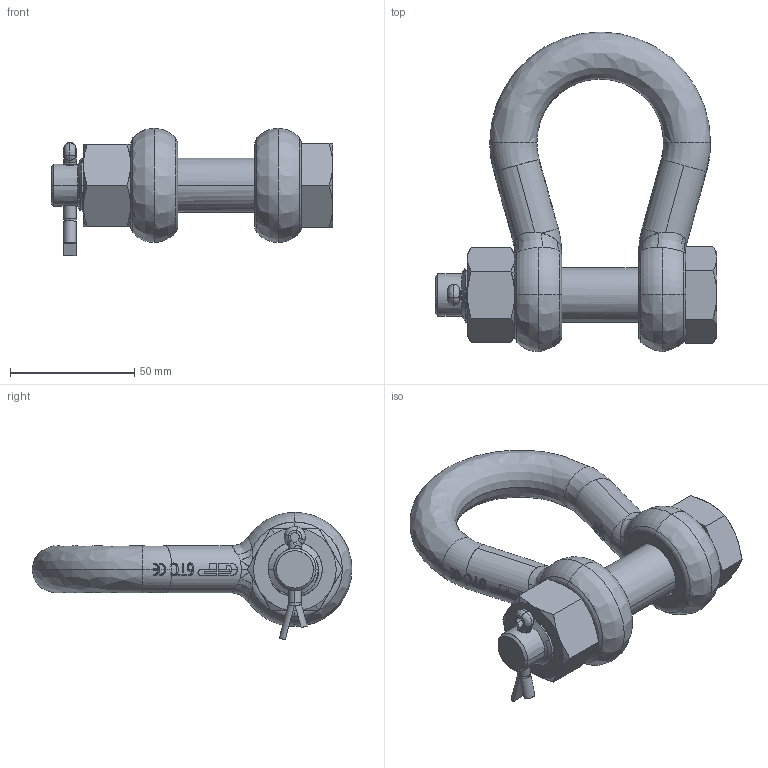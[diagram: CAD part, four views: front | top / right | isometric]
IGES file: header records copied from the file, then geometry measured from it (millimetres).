
Start section: START RECORD GO HERE.
Global section: file name: 4,75.igs; native system: IBM CATIA IGES - CATIA Vers                 ; preprocessor: Solidworks 2009            ; author: v.b.; organization: P4; date: 20090807.082533; units: millimetre
Bounding box: 113.5 x 129 x 51.32 mm (x, y, z)
Surface area: 40009.8 mm2 (no closed solid volume)
Topology: 0 solids, 0 shells, 718 faces, 4417 edges, 4409 vertices
Faces by surface type: bspline 260, plane 257, revolution 201
